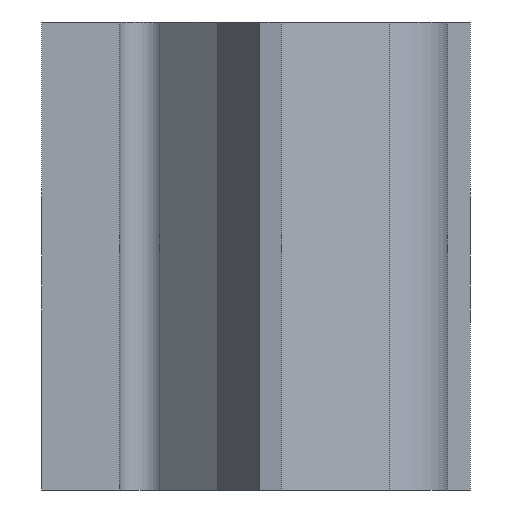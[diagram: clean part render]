
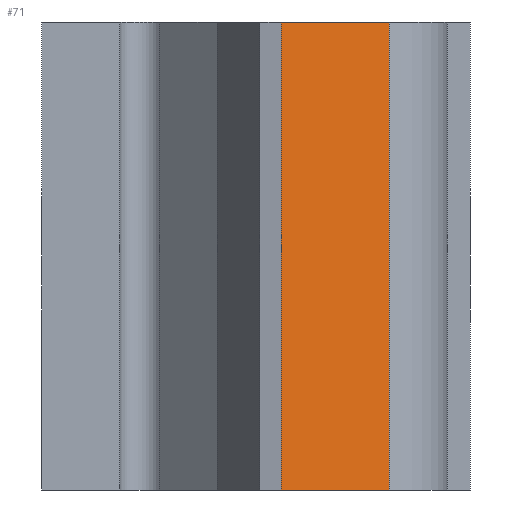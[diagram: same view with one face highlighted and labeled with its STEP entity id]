
A CAD part, front view. The second image highlights one B-rep face of the part: STEP entity #71.
In plain terms, the highlighted planar face has unit normal (0.259, -0.966, 0).
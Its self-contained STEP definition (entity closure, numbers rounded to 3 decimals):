
#12 = LINE ( 'NONE', #23, #219 ) ;
#23 = CARTESIAN_POINT ( 'NONE',  ( 15.362, 73.365, 30. ) ) ;
#30 = CARTESIAN_POINT ( 'NONE',  ( 22.294, 75.222, 30. ) ) ;
#39 = FACE_OUTER_BOUND ( 'NONE', #368, .T. ) ;
#47 = CARTESIAN_POINT ( 'NONE',  ( 22.294, 75.222, 0. ) ) ;
#58 = ORIENTED_EDGE ( 'NONE', *, *, #487, .F. ) ;
#71 = ADVANCED_FACE ( 'NONE', ( #39 ), #825, .F. ) ;
#76 = VERTEX_POINT ( 'NONE', #643 ) ;
#144 = VERTEX_POINT ( 'NONE', #511 ) ;
#152 = EDGE_CURVE ( 'NONE', #144, #297, #989, .T. ) ;
#202 = CARTESIAN_POINT ( 'NONE',  ( 15.362, 73.365, 0. ) ) ;
#219 = VECTOR ( 'NONE', #428, 1000. ) ;
#297 = VERTEX_POINT ( 'NONE', #47 ) ;
#308 = EDGE_CURVE ( 'NONE', #333, #297, #537, .T. ) ;
#326 = CARTESIAN_POINT ( 'NONE',  ( 15.362, 73.365, 30. ) ) ;
#333 = VERTEX_POINT ( 'NONE', #771 ) ;
#352 = DIRECTION ( 'NONE',  ( -0.966, -0.259, 0. ) ) ;
#368 = EDGE_LOOP ( 'NONE', ( #1015, #1021, #58, #747 ) ) ;
#379 = DIRECTION ( 'NONE',  ( 0.966, 0.259, 0. ) ) ;
#392 = LINE ( 'NONE', #326, #918 ) ;
#428 = DIRECTION ( 'NONE',  ( 0., 0., -1. ) ) ;
#439 = CARTESIAN_POINT ( 'NONE',  ( 15.362, 73.365, 30. ) ) ;
#487 = EDGE_CURVE ( 'NONE', #76, #144, #392, .T. ) ;
#511 = CARTESIAN_POINT ( 'NONE',  ( 22.294, 75.222, 30. ) ) ;
#522 = DIRECTION ( 'NONE',  ( -0.259, 0.966, 0. ) ) ;
#537 = LINE ( 'NONE', #202, #716 ) ;
#545 = AXIS2_PLACEMENT_3D ( 'NONE', #439, #522, #352 ) ;
#568 = DIRECTION ( 'NONE',  ( 0.966, 0.259, 0. ) ) ;
#643 = CARTESIAN_POINT ( 'NONE',  ( 15.362, 73.365, 30. ) ) ;
#696 = VECTOR ( 'NONE', #761, 1000. ) ;
#716 = VECTOR ( 'NONE', #379, 1000. ) ;
#747 = ORIENTED_EDGE ( 'NONE', *, *, #908, .T. ) ;
#761 = DIRECTION ( 'NONE',  ( 0., 0., -1. ) ) ;
#771 = CARTESIAN_POINT ( 'NONE',  ( 15.362, 73.365, 0. ) ) ;
#825 = PLANE ( 'NONE',  #545 ) ;
#908 = EDGE_CURVE ( 'NONE', #76, #333, #12, .T. ) ;
#918 = VECTOR ( 'NONE', #568, 1000. ) ;
#989 = LINE ( 'NONE', #30, #696 ) ;
#1015 = ORIENTED_EDGE ( 'NONE', *, *, #308, .T. ) ;
#1021 = ORIENTED_EDGE ( 'NONE', *, *, #152, .F. ) ;
